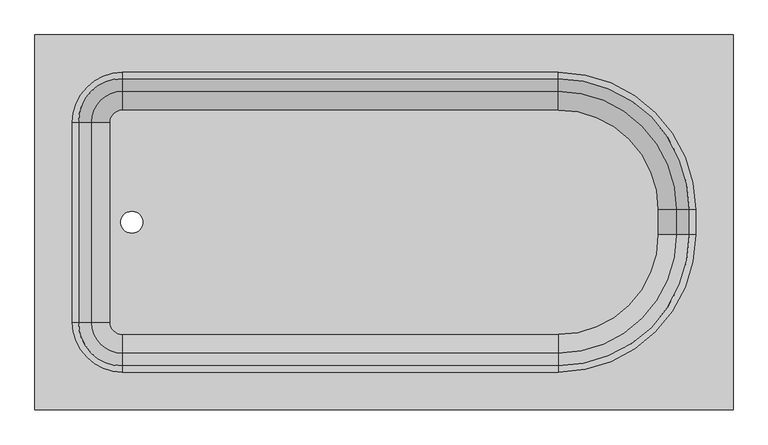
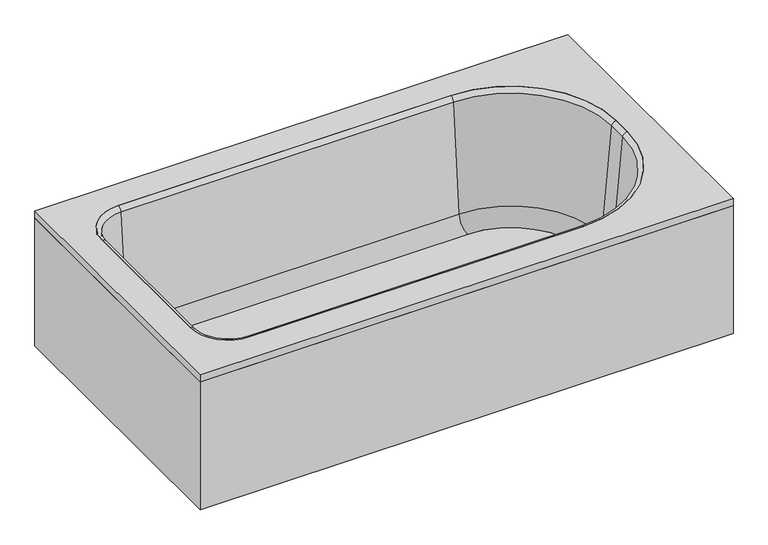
"""IFC4 building model written with IfcOpenShell, lengths in millimetres: flow terminal geometry, 浴缸-矩形(含牆) : 浴缸-矩形(含牆)."""

from ifc_helpers import new_model, si_unit, point, frame, frame_2d, origin, origin_with_axes, place, context, project, spatial, polyline, circle_curve, ellipse_curve, trimmed, segment, composite_curve, outline, extrude, source, transform, mapped, element, save
from ifc_brep_helpers import plane_surface, cylinder_surface, revolved_surface, advanced_brep


def flow_terminal_0a9030c2(model_context):
    return source(origin(), model_context, "Body", "SolidModel", [
        extrude(outline(polyline([(309.3970313, 882.0), (309.3970313, 120.0), (-1110.6029687, 120.0), (-1110.6029687, 882.0), (309.3970313, 882.0)]), holes=[composite_curve([segment(trimmed(circle_curve(frame_2d((-932.8029687, 704.2)), 101.6), [point((-932.8029687, 805.8))], [point((-1034.4029687, 704.2))], True, "CARTESIAN"), True, "CONTINUOUS"), segment(polyline([(-1034.4029687, 704.2), (-1034.4029687, 297.8)]), True, "CONTINUOUS"), segment(trimmed(circle_curve(frame_2d((-932.8029687, 297.8)), 101.6), [point((-1034.4029687, 297.8))], [point((-932.8029687, 196.2))], True, "CARTESIAN"), True, "CONTINUOUS"), segment(polyline([(-932.8029687, 196.2), (-46.2029687, 196.2)]), True, "CONTINUOUS"), segment(trimmed(circle_curve(frame_2d((-46.2029687, 475.6)), 279.4), [point((-46.2029687, 196.2))], [point((233.1970313, 475.6))], True, "CARTESIAN"), True, "CONTINUOUS"), segment(polyline([(233.1970313, 475.6), (233.1970313, 526.4)]), True, "CONTINUOUS"), segment(trimmed(circle_curve(frame_2d((-46.2029687, 526.4)), 279.4), [point((233.1970313, 526.4))], [point((-46.2029687, 805.8))], True, "CARTESIAN"), True, "CONTINUOUS"), segment(polyline([(-46.2029687, 805.8), (-932.8029687, 805.8)]), True, "CONTINUOUS")], self_intersect=False)]), frame((0.0, 0.0, 360.95), z_axis=(0.0, 0.0, 1.0), x_axis=(1.0, 0.0, 0.0)), (0.0, 0.0, 1.0), 19.05),
        extrude(outline(polyline([(309.3970313, 882.0), (309.3970313, 120.0), (-1110.6029687, 120.0), (-1110.6029687, 882.0), (309.3970313, 882.0)]), holes=[polyline([(290.3470313, 862.95), (-1091.5529687, 862.95), (-1091.5529687, 139.05), (290.3470313, 139.05), (290.3470313, 862.95)])]), origin_with_axes(), (0.0, 0.0, 1.0), 360.95),
        extrude(outline(composite_curve([segment(trimmed(circle_curve(frame_2d((-46.2029687, 526.4)), 202.7964741), [point((-46.2029687, 729.1964741))], [point((156.5935054, 526.4))], False, "CARTESIAN"), True, "CONTINUOUS"), segment(polyline([(156.5935054, 526.4), (156.5935054, 475.6)]), True, "CONTINUOUS"), segment(trimmed(circle_curve(frame_2d((-46.2029687, 475.6)), 202.7964741), [point((156.5935054, 475.6))], [point((-46.2029687, 272.8035259))], False, "CARTESIAN"), True, "CONTINUOUS"), segment(polyline([(-46.2029687, 272.8035259), (-932.8029687, 272.8035259)]), True, "CONTINUOUS"), segment(trimmed(circle_curve(frame_2d((-932.8029687, 297.8)), 24.9964741), [point((-932.8029687, 272.8035259))], [point((-957.7994428, 297.8))], False, "CARTESIAN"), True, "CONTINUOUS"), segment(polyline([(-957.7994428, 297.8), (-957.7994428, 704.2)]), True, "CONTINUOUS"), segment(trimmed(circle_curve(frame_2d((-932.8029687, 704.2)), 24.9964741), [point((-957.7994428, 704.2))], [point((-932.8029687, 729.1964741))], False, "CARTESIAN"), True, "CONTINUOUS"), segment(polyline([(-932.8029687, 729.1964741), (-46.2029687, 729.1964741)]), True, "CONTINUOUS")], self_intersect=False), holes=[composite_curve([segment(trimmed(circle_curve(frame_2d((-913.5971625, 501.0)), 22.225), [point((-913.5971625, 523.225))], [point((-913.5971625, 478.775))], True, "CARTESIAN"), True, "CONTINUOUS"), segment(trimmed(circle_curve(frame_2d((-913.5971625, 501.0)), 22.225), [point((-913.5971625, 478.775))], [point((-913.5971625, 523.225))], True, "CARTESIAN"), True, "CONTINUOUS")], self_intersect=False)]), frame((0.0, 0.0, 15.863573), z_axis=(0.0, 0.0, 1.0), x_axis=(1.0, 0.0, 0.0)), (0.0, 0.0, 1.0), 19.05),
        advanced_brep(
        [(-995.7544608, 704.2, 69.6929392), (-932.8029687, 767.1514921, 69.6929392), (-932.8029687, 793.3220035, 368.8232535), (-1021.9249722, 704.2, 368.8232535), (-957.7994428, 704.2, 34.913573), (-932.8029687, 729.1964741, 34.913573), (-957.7994428, 704.2, 15.863573), (-932.8029687, 729.1964741, 15.863573), (-1034.4029687, 704.2, 15.863573), (-932.8029687, 805.8, 15.863573), (-1034.4029687, 704.2, 380.0), (-932.8029687, 805.8, 380.0), (-1021.9249722, 297.8, 368.8232535), (-995.7544608, 297.8, 69.6929392), (-957.7994428, 297.8, 34.913573), (-957.7994428, 297.8, 15.863573), (-1034.4029687, 297.8, 15.863573), (-1034.4029687, 297.8, 380.0), (-932.8029687, 234.8485079, 69.6929392), (-932.8029687, 208.6779965, 368.8232535), (-932.8029687, 272.8035259, 34.913573), (-932.8029687, 272.8035259, 15.863573), (-932.8029687, 196.2, 15.863573), (-932.8029687, 196.2, 380.0), (-46.2029687, 208.6779965, 368.8232535), (-46.2029687, 234.8485079, 69.6929392), (-46.2029687, 272.8035259, 34.913573), (-46.2029687, 272.8035259, 15.863573), (-46.2029687, 196.2, 15.863573), (-46.2029687, 196.2, 380.0), (194.5485234, 475.6, 69.6929392), (220.7190348, 475.6, 368.8232535), (156.5935054, 475.6, 34.913573), (156.5935054, 475.6, 15.863573), (233.1970313, 475.6, 15.863573), (233.1970313, 475.6, 380.0), (220.7190348, 526.4, 368.8232535), (194.5485234, 526.4, 69.6929392), (156.5935054, 526.4, 34.913573), (156.5935054, 526.4, 15.863573), (233.1970313, 526.4, 15.863573), (233.1970313, 526.4, 380.0), (-46.2029687, 767.1514921, 69.6929392), (-46.2029687, 793.3220035, 368.8232535), (-46.2029687, 729.1964741, 34.913573), (-46.2029687, 729.1964741, 15.863573), (-46.2029687, 805.8, 15.863573), (-46.2029687, 805.8, 380.0)],
        [
            (0, 1, circle_curve(frame((-932.8029687, 704.2, 69.6929392), z_axis=(0.0, 0.0, -1.0), x_axis=(0.0, 1.0, 0.0)), 62.9514921)),
            (1, 2),
            (2, 3, circle_curve(frame((-932.8029687, 704.2, 368.8232535), z_axis=(0.0, 0.0, 1.0), x_axis=(0.0, 1.0, 0.0)), 89.1220035)),
            (3, 0),
            (4, 5, circle_curve(frame((-932.8029687, 704.2, 34.913573), z_axis=(0.0, 0.0, -1.0), x_axis=(0.0, 1.0, 0.0)), 24.9964741)),
            (5, 1, circle_curve(frame((-932.8029687, 729.1964741, 73.013573), z_axis=(1.0, 0.0, 0.0), x_axis=(0.0, -1.0, 0.0)), 38.1)),
            (0, 4, circle_curve(frame((-957.7994428, 704.2, 73.013573), z_axis=(0.0, -1.0, 0.0), x_axis=(1.0, 0.0, 0.0)), 38.1)),
            (6, 7, circle_curve(frame((-932.8029687, 704.2, 15.863573), z_axis=(0.0, 0.0, -1.0), x_axis=(0.0, 1.0, 0.0)), 24.9964741)),
            (7, 5),
            (4, 6),
            (8, 9, circle_curve(frame((-932.8029687, 704.2, 15.863573), z_axis=(0.0, 0.0, -1.0), x_axis=(0.0, 1.0, 0.0)), 101.6)),
            (9, 7),
            (6, 8),
            (10, 11, circle_curve(frame((-932.8029687, 704.2, 380.0), z_axis=(0.0, 0.0, -1.0), x_axis=(0.0, 1.0, 0.0)), 101.6)),
            (11, 9),
            (8, 10),
            (2, 11, circle_curve(frame((-932.8029687, 805.8, 367.4462547), z_axis=(-1.0, 0.0, 0.0), x_axis=(0.0, -1.0, 0.0)), 12.5537453)),
            (10, 3, circle_curve(frame((-1034.4029687, 704.2, 367.4462547), z_axis=(0.0, 1.0, 0.0), x_axis=(1.0, 0.0, 0.0)), 12.5537453)),
            (3, 12),
            (12, 13),
            (13, 0),
            (13, 14, circle_curve(frame((-957.7994428, 297.8, 73.013573), z_axis=(0.0, -1.0, 0.0), x_axis=(1.0, 0.0, 0.0)), 38.1)),
            (14, 4),
            (14, 15),
            (15, 6),
            (15, 16),
            (16, 8),
            (16, 17),
            (17, 10),
            (17, 12, circle_curve(frame((-1034.4029687, 297.8, 367.4462547), z_axis=(0.0, 1.0, 0.0), x_axis=(1.0, 0.0, 0.0)), 12.5537453)),
            (18, 13, circle_curve(frame((-932.8029687, 297.8, 69.6929392), z_axis=(0.0, 0.0, -1.0), x_axis=(-1.0, 0.0, 0.0)), 62.9514921)),
            (12, 19, circle_curve(frame((-932.8029687, 297.8, 368.8232535), z_axis=(0.0, 0.0, 1.0), x_axis=(-1.0, 0.0, 0.0)), 89.1220035)),
            (19, 18),
            (20, 14, circle_curve(frame((-932.8029687, 297.8, 34.913573), z_axis=(0.0, 0.0, -1.0), x_axis=(-1.0, 0.0, 0.0)), 24.9964741)),
            (18, 20, circle_curve(frame((-932.8029687, 272.8035259, 73.013573), z_axis=(1.0, 0.0, 0.0), x_axis=(0.0, 1.0, 0.0)), 38.1)),
            (21, 15, circle_curve(frame((-932.8029687, 297.8, 15.863573), z_axis=(0.0, 0.0, -1.0), x_axis=(-1.0, 0.0, 0.0)), 24.9964741)),
            (20, 21),
            (22, 16, circle_curve(frame((-932.8029687, 297.8, 15.863573), z_axis=(0.0, 0.0, -1.0), x_axis=(-1.0, 0.0, 0.0)), 101.6)),
            (21, 22),
            (23, 17, circle_curve(frame((-932.8029687, 297.8, 380.0), z_axis=(0.0, 0.0, -1.0), x_axis=(-1.0, 0.0, 0.0)), 101.6)),
            (22, 23),
            (23, 19, circle_curve(frame((-932.8029687, 196.2, 367.4462547), z_axis=(-1.0, 0.0, 0.0), x_axis=(0.0, 1.0, 0.0)), 12.5537453)),
            (19, 24),
            (24, 25),
            (25, 18),
            (25, 26, circle_curve(frame((-46.2029687, 272.8035259, 73.013573), z_axis=(1.0, 0.0, 0.0), x_axis=(0.0, 1.0, 0.0)), 38.1)),
            (26, 20),
            (26, 27),
            (27, 21),
            (27, 28),
            (28, 22),
            (28, 29),
            (29, 23),
            (29, 24, circle_curve(frame((-46.2029687, 196.2, 367.4462547), z_axis=(-1.0, 0.0, 0.0), x_axis=(0.0, 1.0, 0.0)), 12.5537453)),
            (30, 25, circle_curve(frame((-46.2029687, 475.6, 69.6929392), z_axis=(0.0, 0.0, -1.0), x_axis=(0.0, -1.0, 0.0)), 240.7514921)),
            (24, 31, circle_curve(frame((-46.2029687, 475.6, 368.8232535), z_axis=(0.0, 0.0, 1.0), x_axis=(0.0, -1.0, 0.0)), 266.9220035)),
            (31, 30),
            (32, 26, circle_curve(frame((-46.2029687, 475.6, 34.913573), z_axis=(0.0, 0.0, -1.0), x_axis=(0.0, -1.0, 0.0)), 202.7964741)),
            (30, 32, circle_curve(frame((156.5935054, 475.6, 73.013573), z_axis=(0.0, 1.0, 0.0), x_axis=(-1.0, 0.0, 0.0)), 38.1)),
            (33, 27, circle_curve(frame((-46.2029687, 475.6, 15.863573), z_axis=(0.0, 0.0, -1.0), x_axis=(0.0, -1.0, 0.0)), 202.7964741)),
            (32, 33),
            (34, 28, circle_curve(frame((-46.2029687, 475.6, 15.863573), z_axis=(0.0, 0.0, -1.0), x_axis=(0.0, -1.0, 0.0)), 279.4)),
            (33, 34),
            (35, 29, circle_curve(frame((-46.2029687, 475.6, 380.0), z_axis=(0.0, 0.0, -1.0), x_axis=(0.0, -1.0, 0.0)), 279.4)),
            (34, 35),
            (35, 31, circle_curve(frame((233.1970313, 475.6, 367.4462547), z_axis=(0.0, -1.0, 0.0), x_axis=(-1.0, 0.0, 0.0)), 12.5537453)),
            (31, 36),
            (36, 37),
            (37, 30),
            (37, 38, circle_curve(frame((156.5935054, 526.4, 73.013573), z_axis=(0.0, 1.0, 0.0), x_axis=(-1.0, 0.0, 0.0)), 38.1)),
            (38, 32),
            (38, 39),
            (39, 33),
            (39, 40),
            (40, 34),
            (40, 41),
            (41, 35),
            (41, 36, circle_curve(frame((233.1970313, 526.4, 367.4462547), z_axis=(0.0, -1.0, 0.0), x_axis=(-1.0, 0.0, 0.0)), 12.5537453)),
            (42, 37, circle_curve(frame((-46.2029687, 526.4, 69.6929392), z_axis=(0.0, 0.0, -1.0), x_axis=(1.0, 0.0, 0.0)), 240.7514921)),
            (36, 43, circle_curve(frame((-46.2029687, 526.4, 368.8232535), z_axis=(0.0, 0.0, 1.0), x_axis=(1.0, 0.0, 0.0)), 266.9220035)),
            (43, 42),
            (44, 38, circle_curve(frame((-46.2029687, 526.4, 34.913573), z_axis=(0.0, 0.0, -1.0), x_axis=(1.0, 0.0, 0.0)), 202.7964741)),
            (42, 44, circle_curve(frame((-46.2029687, 729.1964741, 73.013573), z_axis=(-1.0, 0.0, 0.0), x_axis=(0.0, -1.0, 0.0)), 38.1)),
            (45, 39, circle_curve(frame((-46.2029687, 526.4, 15.863573), z_axis=(0.0, 0.0, -1.0), x_axis=(1.0, 0.0, 0.0)), 202.7964741)),
            (44, 45),
            (46, 40, circle_curve(frame((-46.2029687, 526.4, 15.863573), z_axis=(0.0, 0.0, -1.0), x_axis=(1.0, 0.0, 0.0)), 279.4)),
            (45, 46),
            (47, 41, circle_curve(frame((-46.2029687, 526.4, 380.0), z_axis=(0.0, 0.0, -1.0), x_axis=(1.0, 0.0, 0.0)), 279.4)),
            (46, 47),
            (47, 43, circle_curve(frame((-46.2029687, 805.8, 367.4462547), z_axis=(1.0, 0.0, 0.0), x_axis=(0.0, -1.0, 0.0)), 12.5537453)),
            (43, 2),
            (1, 42),
            (5, 44),
            (7, 45),
            (9, 46),
            (11, 47),
        ],
        [
            revolved_surface(polyline([(-932.8029687, 793.3220035, 368.8232535), (-932.8029687, 767.1514921, 69.6929392)]), (-932.8029687, 704.2, 380.0), (0.0, 0.0, 1.0)),
            revolved_surface(trimmed(ellipse_curve(frame((-932.8029687, 729.1964741, 73.013573), z_axis=(-1.0, 0.0, 0.0), x_axis=(0.0, -1.0, 0.0)), 38.1, 38.1), [point((-932.8029687, 767.1514921, 69.6929392))], [point((-932.8029687, 729.1964741, 34.913573))], True, "CARTESIAN"), (-932.8029687, 704.2, 380.0), (0.0, 0.0, 1.0)),
            revolved_surface(polyline([(-932.8029687, 729.1964741, 34.913572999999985), (-932.8029687, 729.1964741, 15.863572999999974)]), (-932.8029687, 704.2, 380.0), (0.0, 0.0, 1.0)),
            plane_surface(frame((-932.8029687, 704.2, 15.863573), z_axis=(0.0, 0.0, -1.0), x_axis=(0.0, 1.0, 0.0))),
            cylinder_surface(frame((-932.8029687, 704.2, 380.0), z_axis=(0.0, 0.0, 1.0), x_axis=(0.0, 1.0, 0.0)), 101.6),
            revolved_surface(trimmed(ellipse_curve(frame((-932.8029687, 805.8, 367.4462547), z_axis=(1.0, 0.0, 0.0), x_axis=(0.0, -1.0, 0.0)), 12.5537453, 12.5537453), [point((-932.8029687, 805.8, 380.0))], [point((-932.8029687, 793.3220035, 368.8232535))], True, "CARTESIAN"), (-932.8029687, 704.2, 380.0), (0.0, 0.0, 1.0)),
            plane_surface(frame((-1021.9249722, 704.2, 368.8232535), z_axis=(0.9961946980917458, 0.0, 0.08715574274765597), x_axis=(0.0, -1.0, 0.0))),
            revolved_surface(polyline([(-919.6994427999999, 297.8, 73.013573), (-919.6994427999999, 704.2, 73.013573)]), (-957.7994428, 704.2, 73.013573), (0.0, -1.0, 0.0)),
            plane_surface(frame((-957.7994428, 704.2, 34.913573), z_axis=(1.0, 0.0, 0.0), x_axis=(0.0, -1.0, 0.0))),
            plane_surface(frame((-957.7994428, 704.2, 15.863573), z_axis=(0.0, 0.0, -1.0), x_axis=(0.0, -1.0, 0.0))),
            plane_surface(frame((-1034.4029687, 704.2, 15.863573), z_axis=(-1.0, 0.0, 0.0), x_axis=(0.0, -1.0, 0.0))),
            cylinder_surface(frame((-1034.4029687, 704.2, 367.4462547), z_axis=(0.0, 1.0, 0.0), x_axis=(1.0, 0.0, 0.0)), 12.5537453),
            revolved_surface(polyline([(-1021.9249722, 297.8, 368.8232535), (-995.7544608, 297.8, 69.6929392)]), (-932.8029687, 297.8, 380.0), (0.0, 0.0, 1.0)),
            revolved_surface(trimmed(ellipse_curve(frame((-957.7994428, 297.8, 73.013573), z_axis=(0.0, -1.0, 0.0), x_axis=(1.0, 0.0, 0.0)), 38.1, 38.1), [point((-995.7544608, 297.8, 69.6929392))], [point((-957.7994428, 297.8, 34.913573))], True, "CARTESIAN"), (-932.8029687, 297.8, 380.0), (0.0, 0.0, 1.0)),
            revolved_surface(polyline([(-957.7994428, 297.8, 34.913572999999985), (-957.7994428, 297.8, 15.863572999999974)]), (-932.8029687, 297.8, 380.0), (0.0, 0.0, 1.0)),
            plane_surface(frame((-932.8029687, 297.8, 15.863573), z_axis=(0.0, 0.0, -1.0), x_axis=(-1.0, 0.0, 0.0))),
            cylinder_surface(frame((-932.8029687, 297.8, 380.0), z_axis=(0.0, 0.0, 1.0), x_axis=(-1.0, 0.0, 0.0)), 101.6),
            revolved_surface(trimmed(ellipse_curve(frame((-1034.4029687, 297.8, 367.4462547), z_axis=(0.0, 1.0, 0.0), x_axis=(1.0, 0.0, 0.0)), 12.5537453, 12.5537453), [point((-1034.4029687, 297.8, 380.0))], [point((-1021.9249722, 297.8, 368.8232535))], True, "CARTESIAN"), (-932.8029687, 297.8, 380.0), (0.0, 0.0, 1.0)),
            plane_surface(frame((-932.8029687, 208.6779965, 368.8232535), z_axis=(0.0, 0.9961946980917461, 0.08715574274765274), x_axis=(1.0, 0.0, 0.0))),
            revolved_surface(polyline([(-46.20296870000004, 310.90352590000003, 73.013573), (-932.8029687, 310.90352590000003, 73.013573)]), (-932.8029687, 272.8035259, 73.013573), (1.0, 0.0, 0.0)),
            plane_surface(frame((-932.8029687, 272.8035259, 34.913573), z_axis=(0.0, 1.0, 0.0), x_axis=(1.0, 0.0, 0.0))),
            plane_surface(frame((-932.8029687, 272.8035259, 15.863573), z_axis=(0.0, 0.0, -1.0), x_axis=(1.0, 0.0, 0.0))),
            plane_surface(frame((-932.8029687, 196.2, 15.863573), z_axis=(0.0, -1.0, 0.0), x_axis=(1.0, 0.0, 0.0))),
            cylinder_surface(frame((-932.8029687, 196.2, 367.4462547), z_axis=(-1.0, 0.0, 0.0), x_axis=(0.0, 1.0, 0.0)), 12.5537453),
            revolved_surface(polyline([(-46.2029687, 208.6779965, 368.8232535), (-46.2029687, 234.8485079, 69.6929392)]), (-46.2029687, 475.6, 380.0), (0.0, 0.0, 1.0)),
            revolved_surface(trimmed(ellipse_curve(frame((-46.2029687, 272.8035259, 73.013573), z_axis=(1.0, 0.0, 0.0), x_axis=(0.0, 1.0, 0.0)), 38.1, 38.1), [point((-46.2029687, 234.8485079, 69.6929392))], [point((-46.2029687, 272.8035259, 34.913573))], True, "CARTESIAN"), (-46.2029687, 475.6, 380.0), (0.0, 0.0, 1.0)),
            revolved_surface(polyline([(-46.2029687, 272.8035259, 34.913572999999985), (-46.2029687, 272.8035259, 15.863572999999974)]), (-46.2029687, 475.6, 380.0), (0.0, 0.0, 1.0)),
            plane_surface(frame((-46.2029687, 475.6, 15.863573), z_axis=(0.0, 0.0, -1.0), x_axis=(0.0, -1.0, 0.0))),
            cylinder_surface(frame((-46.2029687, 475.6, 380.0), z_axis=(0.0, 0.0, 1.0), x_axis=(0.0, -1.0, 0.0)), 279.4),
            revolved_surface(trimmed(ellipse_curve(frame((-46.2029687, 196.2, 367.4462547), z_axis=(-1.0, 0.0, 0.0), x_axis=(0.0, 1.0, 0.0)), 12.5537453, 12.5537453), [point((-46.2029687, 196.2, 380.0))], [point((-46.2029687, 208.6779965, 368.8232535))], True, "CARTESIAN"), (-46.2029687, 475.6, 380.0), (0.0, 0.0, 1.0)),
            plane_surface(frame((220.7190348, 475.6, 368.8232535), z_axis=(-0.9961946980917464, 0.0, 0.0871557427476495), x_axis=(0.0, 1.0, 0.0))),
            revolved_surface(polyline([(118.4935054, 526.4, 73.013573), (118.4935054, 475.6, 73.013573)]), (156.5935054, 475.6, 73.013573), (0.0, 1.0, 0.0)),
            plane_surface(frame((156.5935054, 475.6, 34.913573), z_axis=(-1.0, 0.0, 0.0), x_axis=(0.0, 1.0, 0.0))),
            plane_surface(frame((156.5935054, 475.6, 15.863573), z_axis=(0.0, 0.0, -1.0), x_axis=(0.0, 1.0, 0.0))),
            plane_surface(frame((233.1970313, 475.6, 15.863573), z_axis=(1.0, 0.0, 0.0), x_axis=(0.0, 1.0, 0.0))),
            cylinder_surface(frame((233.1970313, 475.6, 367.4462547), z_axis=(0.0, -1.0, 0.0), x_axis=(-1.0, 0.0, 0.0)), 12.5537453),
            revolved_surface(polyline([(220.7190348, 526.4, 368.8232535), (194.5485234, 526.4, 69.6929392)]), (-46.2029687, 526.4, 380.0), (0.0, 0.0, 1.0)),
            revolved_surface(trimmed(ellipse_curve(frame((156.5935054, 526.4, 73.013573), z_axis=(0.0, 1.0, 0.0), x_axis=(-1.0, 0.0, 0.0)), 38.1, 38.1), [point((194.5485234, 526.4, 69.6929392))], [point((156.5935054, 526.4, 34.913573))], True, "CARTESIAN"), (-46.2029687, 526.4, 380.0), (0.0, 0.0, 1.0)),
            revolved_surface(polyline([(156.59350540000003, 526.4, 34.913572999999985), (156.59350540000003, 526.4, 15.863572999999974)]), (-46.2029687, 526.4, 380.0), (0.0, 0.0, 1.0)),
            plane_surface(frame((-46.2029687, 526.4, 15.863573), z_axis=(0.0, 0.0, -1.0), x_axis=(1.0, 0.0, 0.0))),
            cylinder_surface(frame((-46.2029687, 526.4, 380.0), z_axis=(0.0, 0.0, 1.0), x_axis=(1.0, 0.0, 0.0)), 279.4),
            revolved_surface(trimmed(ellipse_curve(frame((233.1970313, 526.4, 367.4462547), z_axis=(0.0, -1.0, 0.0), x_axis=(-1.0, 0.0, 0.0)), 12.5537453, 12.5537453), [point((233.1970313, 526.4, 380.0))], [point((220.7190348, 526.4, 368.8232535))], True, "CARTESIAN"), (-46.2029687, 526.4, 380.0), (0.0, 0.0, 1.0)),
            plane_surface(frame((-46.2029687, 793.3220035, 368.8232535), z_axis=(0.0, -0.9961946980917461, 0.08715574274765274), x_axis=(-1.0, 0.0, 0.0))),
            revolved_surface(polyline([(-932.8029687, 691.0964741, 73.013573), (-46.2029687, 691.0964741, 73.013573)]), (-46.2029687, 729.1964741, 73.013573), (-1.0, 0.0, 0.0)),
            plane_surface(frame((-46.2029687, 729.1964741, 34.913573), z_axis=(0.0, -1.0, 0.0), x_axis=(-1.0, 0.0, 0.0))),
            plane_surface(frame((-46.2029687, 729.1964741, 15.863573), z_axis=(0.0, 0.0, -1.0), x_axis=(-1.0, 0.0, 0.0))),
            plane_surface(frame((-46.2029687, 805.8, 15.863573), z_axis=(0.0, 1.0, 0.0), x_axis=(-1.0, 0.0, 0.0))),
            cylinder_surface(frame((-46.2029687, 805.8, 367.4462547), z_axis=(1.0, 0.0, 0.0), x_axis=(0.0, -1.0, 0.0)), 12.5537453),
        ],
        [
            (0, [[1, 2, 3, 4]]),
            (1, [[5, 6, -1, 7]]),
            (2, [[8, 9, -5, 10]]),
            (3, [[11, 12, -8, 13]]),
            (4, [[14, 15, -11, 16]]),
            (5, [[-3, 17, -14, 18]]),
            (6, [[-4, 19, 20, 21]]),
            (7, [[-7, -21, 22, 23]]),
            (8, [[-10, -23, 24, 25]]),
            (9, [[-13, -25, 26, 27]]),
            (10, [[-16, -27, 28, 29]]),
            (11, [[-18, -29, 30, -19]]),
            (12, [[31, -20, 32, 33]]),
            (13, [[34, -22, -31, 35]]),
            (14, [[36, -24, -34, 37]]),
            (15, [[38, -26, -36, 39]]),
            (16, [[40, -28, -38, 41]]),
            (17, [[-32, -30, -40, 42]]),
            (18, [[-33, 43, 44, 45]]),
            (19, [[-35, -45, 46, 47]]),
            (20, [[-37, -47, 48, 49]]),
            (21, [[-39, -49, 50, 51]]),
            (22, [[-41, -51, 52, 53]]),
            (23, [[-42, -53, 54, -43]]),
            (24, [[55, -44, 56, 57]]),
            (25, [[58, -46, -55, 59]]),
            (26, [[60, -48, -58, 61]]),
            (27, [[62, -50, -60, 63]]),
            (28, [[64, -52, -62, 65]]),
            (29, [[-56, -54, -64, 66]]),
            (30, [[-57, 67, 68, 69]]),
            (31, [[-59, -69, 70, 71]]),
            (32, [[-61, -71, 72, 73]]),
            (33, [[-63, -73, 74, 75]]),
            (34, [[-65, -75, 76, 77]]),
            (35, [[-66, -77, 78, -67]]),
            (36, [[79, -68, 80, 81]]),
            (37, [[82, -70, -79, 83]]),
            (38, [[84, -72, -82, 85]]),
            (39, [[86, -74, -84, 87]]),
            (40, [[88, -76, -86, 89]]),
            (41, [[-80, -78, -88, 90]]),
            (42, [[-81, 91, -2, 92]]),
            (43, [[-83, -92, -6, 93]]),
            (44, [[-85, -93, -9, 94]]),
            (45, [[-87, -94, -12, 95]]),
            (46, [[-89, -95, -15, 96]]),
            (47, [[-90, -96, -17, -91]]),
        ],
    ),
    ])


if __name__ == "__main__":
    model = new_model("IFC4")
    model_context = context("Model", 3, world=origin())
    ifc_project = project(units=[si_unit("LENGTHUNIT", "METRE", prefix="MILLI")], contexts=[model_context])
    site = spatial("IfcSite", under=ifc_project)
    building = spatial("IfcBuilding", under=site)
    placement = place(None, origin())
    flow_terminal_shape = flow_terminal_0a9030c2(model_context)
    element("IfcFlowTerminal", 1, ObjectType="浴缸-矩形(含牆) : 浴缸-矩形(含牆)", at=placement, inside=building, context=model_context, shape_type="MappedRepresentation", body=[
        mapped(flow_terminal_shape, transform((0.0, 0.0, 0.0), x_axis=(1.0, 0.0, 0.0), y_axis=(0.0, 1.0, 0.0), z_axis=(0.0, 0.0, 1.0))),
    ])
    save(model, "model.ifc")
